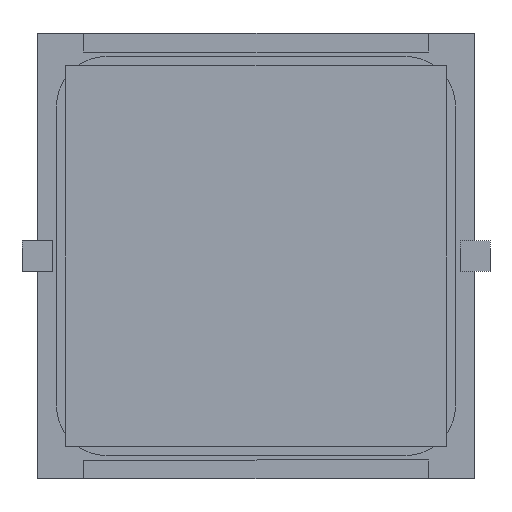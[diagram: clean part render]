
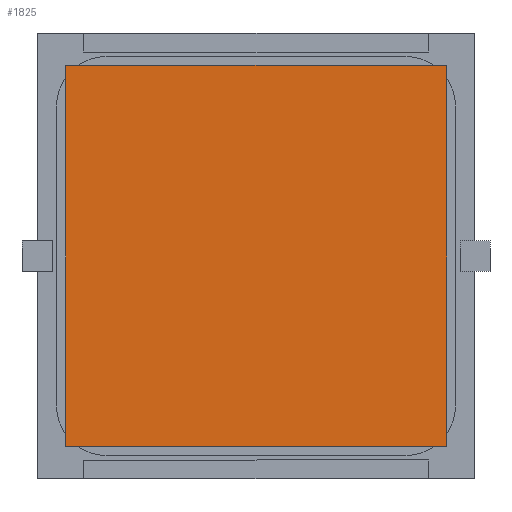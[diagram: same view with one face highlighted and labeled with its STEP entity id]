
A CAD part, front view. The second image highlights one B-rep face of the part: STEP entity #1825.
In plain terms, the highlighted planar face has unit normal (0, -1, 0).
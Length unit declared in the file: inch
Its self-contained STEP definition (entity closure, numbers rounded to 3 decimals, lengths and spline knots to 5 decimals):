
#127 = CARTESIAN_POINT ( 'NONE',  ( -0.5, -0.005, -0.5 ) ) ;
#156 = DIRECTION ( 'NONE',  ( 0., 0., -1. ) ) ;
#345 = VECTOR ( 'NONE', #156, 39.37008 ) ;
#368 = DIRECTION ( 'NONE',  ( 0., 0., 1. ) ) ;
#584 = EDGE_CURVE ( 'NONE', #6171, #5090, #2708, .T. ) ;
#610 = ORIENTED_EDGE ( 'NONE', *, *, #2292, .F. ) ;
#1461 = VECTOR ( 'NONE', #7170, 39.37008 ) ;
#1825 = ADVANCED_FACE ( 'NONE', ( #2001 ), #6116, .F. ) ;
#1923 = CARTESIAN_POINT ( 'NONE',  ( -0.5, -0.005, 0.5 ) ) ;
#2001 = FACE_OUTER_BOUND ( 'NONE', #3393, .T. ) ;
#2292 = EDGE_CURVE ( 'NONE', #5090, #6210, #5503, .T. ) ;
#2537 = CARTESIAN_POINT ( 'NONE',  ( -0.5, -0.005, -0.5 ) ) ;
#2708 = LINE ( 'NONE', #6220, #345 ) ;
#2880 = ORIENTED_EDGE ( 'NONE', *, *, #6586, .F. ) ;
#3005 = LINE ( 'NONE', #3081, #3882 ) ;
#3081 = CARTESIAN_POINT ( 'NONE',  ( -0.5, -0.005, 0.5 ) ) ;
#3155 = DIRECTION ( 'NONE',  ( 0., 1., 0. ) ) ;
#3294 = CARTESIAN_POINT ( 'NONE',  ( -0.5, -0.005, 0.5 ) ) ;
#3393 = EDGE_LOOP ( 'NONE', ( #2880, #610, #5028, #5175 ) ) ;
#3882 = VECTOR ( 'NONE', #5470, 39.37008 ) ;
#3932 = LINE ( 'NONE', #6300, #4756 ) ;
#4047 = VERTEX_POINT ( 'NONE', #3294 ) ;
#4756 = VECTOR ( 'NONE', #368, 39.37008 ) ;
#5028 = ORIENTED_EDGE ( 'NONE', *, *, #584, .F. ) ;
#5090 = VERTEX_POINT ( 'NONE', #6838 ) ;
#5175 = ORIENTED_EDGE ( 'NONE', *, *, #6398, .F. ) ;
#5470 = DIRECTION ( 'NONE',  ( 1., 0., 0. ) ) ;
#5503 = LINE ( 'NONE', #127, #1461 ) ;
#6116 = PLANE ( 'NONE',  #7299 ) ;
#6171 = VERTEX_POINT ( 'NONE', #7542 ) ;
#6210 = VERTEX_POINT ( 'NONE', #2537 ) ;
#6220 = CARTESIAN_POINT ( 'NONE',  ( 0.5, -0.005, -0.5 ) ) ;
#6300 = CARTESIAN_POINT ( 'NONE',  ( -0.5, -0.005, -0.5 ) ) ;
#6398 = EDGE_CURVE ( 'NONE', #4047, #6171, #3005, .T. ) ;
#6586 = EDGE_CURVE ( 'NONE', #6210, #4047, #3932, .T. ) ;
#6838 = CARTESIAN_POINT ( 'NONE',  ( 0.5, -0.005, -0.5 ) ) ;
#7170 = DIRECTION ( 'NONE',  ( -1., 0., 0. ) ) ;
#7171 = DIRECTION ( 'NONE',  ( 0., 0., 1. ) ) ;
#7299 = AXIS2_PLACEMENT_3D ( 'NONE', #1923, #3155, #7171 ) ;
#7542 = CARTESIAN_POINT ( 'NONE',  ( 0.5, -0.005, 0.5 ) ) ;
